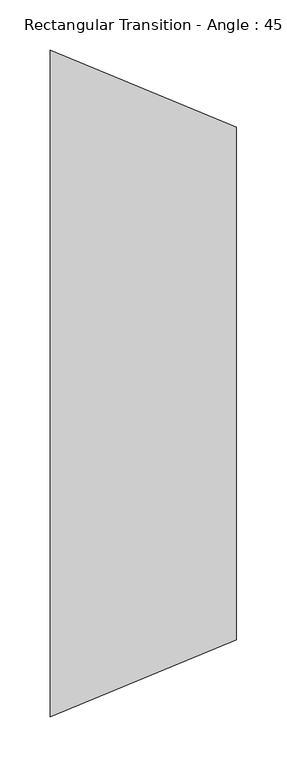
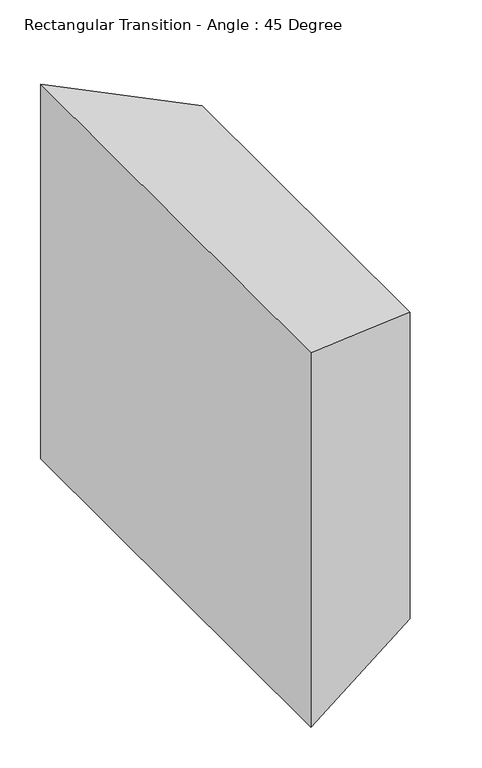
"""IFC4 building model written with IfcOpenShell, lengths in millimetres: duct fitting geometry, Rectangular Transition - Angle : 45 Degree."""

from ifc_helpers import new_model, si_unit, origin, place, context, project, spatial, faceted_brep, source, transform, mapped, element, save


def rectangular_transition_angle_45_degree_1937f1fd(model_context):
    return source(origin(), model_context, "Body", "Brep", [
        faceted_brep([(183.9630735, -254.0, 228.6), (183.9630735, -254.0, -228.6), (183.9630735, 254.0, -228.6), (183.9630735, 254.0, 228.6), (0.0, -330.2, 279.4), (0.0, 330.2, 279.4), (0.0, 330.2, -279.4), (0.0, -330.2, -279.4)], [[[0, 1, 2, 3]], [[4, 5, 6, 7]], [[4, 7, 1, 0]], [[7, 6, 2, 1]], [[6, 5, 3, 2]], [[5, 4, 0, 3]]]),
    ])


if __name__ == "__main__":
    model = new_model("IFC4")
    model_context = context("Model", 3, world=origin())
    ifc_project = project(units=[si_unit("LENGTHUNIT", "METRE", prefix="MILLI")], contexts=[model_context])
    site = spatial("IfcSite", under=ifc_project)
    building = spatial("IfcBuilding", under=site)
    placement = place(None, origin())
    rectangular_transition_angle_45_degree_shape = rectangular_transition_angle_45_degree_1937f1fd(model_context)
    element("IfcDuctFitting", 1, ObjectType="Rectangular Transition - Angle : 45 Degree", at=placement, inside=building, context=model_context, shape_type="MappedRepresentation", body=[
        mapped(rectangular_transition_angle_45_degree_shape, transform((0.0, 0.0, 0.0), x_axis=(1.0, 0.0, 0.0), y_axis=(0.0, 1.0, 0.0), z_axis=(0.0, 0.0, 1.0))),
    ])
    save(model, "model.ifc")
